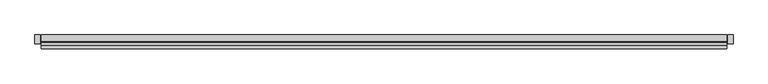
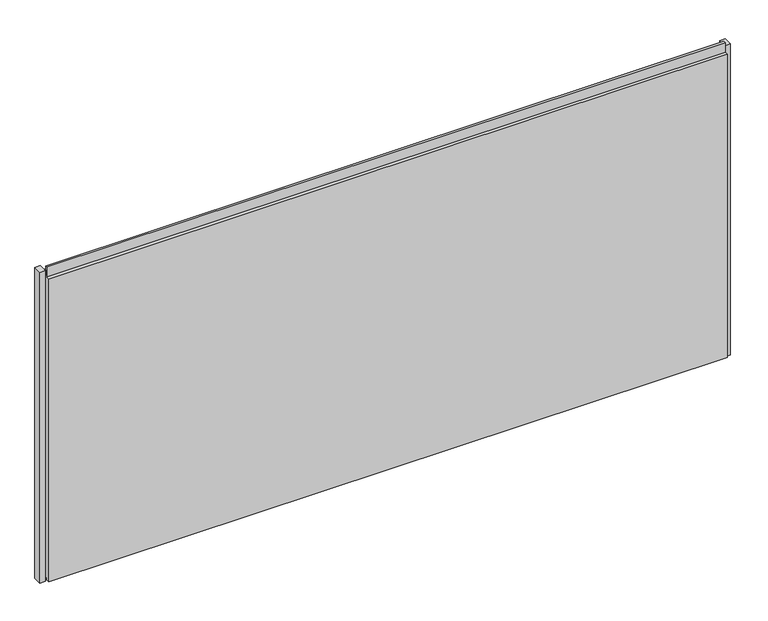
"""IFC4 building model written with IfcOpenShell, lengths in millimetres: plate geometry, Trimo_Qbiss Screen_Normal Panel-HORIZONTAL : HR - B-F."""

import ifcopenshell
import ifcopenshell.guid

model = None  # the IFC model being written
_history = None  # IfcOwnerHistory: only IFC2X3 demands one
_inside = {}  # id of a spatial element -> (the spatial element, [elements in it])
_under = {}  # id of a project, library or spatial element -> (it, [spatial elements below it])
_declared = {}  # id of a project -> (the project, [libraries it declares])
_typed = {}  # id of a type object -> (the type object, [elements of that type])
_made_of = {}  # id of a material, layer set ... -> (it, [elements and type objects made of it])


def new_model(schema):
    """Start an empty IFC model of exactly this schema.

    Asked for "IFC4X3", IfcOpenShell would pick the latest addendum, in which some entities
    have other attributes; the version numbers below select the first issue.
    IFC2X3 requires an IfcOwnerHistory on every rooted entity: one is made here for all.
    """
    global model, _history
    if schema == "IFC4X3":
        model = ifcopenshell.file(schema_version=(4, 3, 0, 0))
    else:
        model = ifcopenshell.file(schema=schema)
    _inside.clear()
    _under.clear()
    _declared.clear()
    _typed.clear()
    _made_of.clear()
    _history = None
    if model.schema == "IFC2X3":
        org = make("IfcOrganization", Name="unknown")
        user = make(
            "IfcPersonAndOrganization",
            ThePerson=make("IfcPerson", FamilyName="unknown"),
            TheOrganization=org,
        )
        app = make(
            "IfcApplication",
            ApplicationDeveloper=org,
            Version="unknown",
            ApplicationFullName="unknown",
            ApplicationIdentifier="unknown",
        )
        _history = make(
            "IfcOwnerHistory",
            OwningUser=user,
            OwningApplication=app,
            ChangeAction="ADDED",
            CreationDate=0,
        )
    return model


def make(cls, **values):
    """One entity of the class cls with the attributes given. An attribute that is None is left unset."""
    return model.create_entity(
        cls, **{name: value for name, value in values.items() if value is not None}
    )


def rooted(cls, **values):
    """An entity with a GlobalId (a new one), such as an element, a storey or a relation."""
    return make(cls, GlobalId=ifcopenshell.guid.new(), OwnerHistory=_history, **values)


def si_unit(unit_type, name, prefix=None):
    """IfcSIUnit, for example si_unit("LENGTHUNIT", "METRE", prefix="MILLI")."""
    return make("IfcSIUnit", UnitType=unit_type, Prefix=prefix, Name=name)


def assignment(units):
    """IfcUnitAssignment: the units of a project."""
    return None if units is None else make("IfcUnitAssignment", Units=units)


def point(xyz):
    """IfcCartesianPoint."""
    return None if xyz is None else make("IfcCartesianPoint", Coordinates=xyz)


def direction(xyz):
    """IfcDirection."""
    return None if xyz is None else make("IfcDirection", DirectionRatios=xyz)


def frame(location, z_axis=None, x_axis=None):
    """IfcAxis2Placement3D, a coordinate frame: its origin and axes. An axis left out is left unset."""
    return make(
        "IfcAxis2Placement3D",
        Location=point(location),
        Axis=direction(z_axis),
        RefDirection=direction(x_axis),
    )


def origin():
    """The frame at (0, 0, 0) with its axes left unset."""
    return frame((0.0, 0.0, 0.0))


def place(relative_to, where):
    """IfcLocalPlacement: puts the frame where relative to a parent placement (None: the world)."""
    return make(
        "IfcLocalPlacement", PlacementRelTo=relative_to, RelativePlacement=where
    )


def context(
    kind, dimensions, precision=None, world=None, true_north=None, identifier=None
):
    """IfcGeometricRepresentationContext, for example the 3D "Model" context."""
    return make(
        "IfcGeometricRepresentationContext",
        ContextIdentifier=identifier,
        ContextType=kind,
        CoordinateSpaceDimension=dimensions,
        Precision=precision,
        WorldCoordinateSystem=world,
        TrueNorth=true_north,
    )


def project(units=None, contexts=None):
    """IfcProject with its units and contexts."""
    return rooted(
        "IfcProject",
        Name="project",
        RepresentationContexts=contexts,
        UnitsInContext=assignment(units),
    )


def spatial(cls, under=None, at=None, **own):
    """A site, building, storey or space (cls), placed at a placement, below another one or the project."""
    s = rooted(cls, ObjectPlacement=at, **own)
    if under is not None:
        _under.setdefault(under.id(), (under, []))[1].append(s)
    return s


def polyline(points):
    """IfcPolyline through the points."""
    return make("IfcPolyline", Points=[point(p) for p in points])


def outline(outer, holes=None, kind="AREA"):
    """IfcArbitraryClosedProfileDef: a profile drawn as a closed curve; with holes, ...WithVoids."""
    if holes is None:
        return make("IfcArbitraryClosedProfileDef", ProfileType=kind, OuterCurve=outer)
    return make(
        "IfcArbitraryProfileDefWithVoids",
        ProfileType=kind,
        OuterCurve=outer,
        InnerCurves=holes,
    )


def extrude(swept, where, along, depth):
    """IfcExtrudedAreaSolid: the profile swept, set in the frame where, extruded along a direction by depth."""
    return make(
        "IfcExtrudedAreaSolid",
        SweptArea=swept,
        Position=where,
        ExtrudedDirection=direction(along),
        Depth=depth,
    )


def shape(context_of_items, identifier, shape_type, items):
    """IfcShapeRepresentation: the items that make up one representation, for example the "Body"."""
    return make(
        "IfcShapeRepresentation",
        ContextOfItems=context_of_items,
        RepresentationIdentifier=identifier,
        RepresentationType=shape_type,
        Items=items,
    )


def source(mapping_origin, context_of_items, identifier, shape_type, items):
    """IfcRepresentationMap: a shape defined once, which mapped items show again and again."""
    return make(
        "IfcRepresentationMap",
        MappingOrigin=mapping_origin,
        MappedRepresentation=shape(context_of_items, identifier, shape_type, items),
    )


def transform(
    local_origin,
    x_axis=None,
    y_axis=None,
    z_axis=None,
    scale=None,
    scale2=None,
    scale3=None,
    uniform=True,
):
    """IfcCartesianTransformationOperator3D, or its non-uniform kind. x_axis, y_axis, z_axis: its Axis1, 2, 3."""
    if uniform:
        return make(
            "IfcCartesianTransformationOperator3D",
            Axis1=direction(x_axis),
            Axis2=direction(y_axis),
            LocalOrigin=point(local_origin),
            Scale=scale,
            Axis3=direction(z_axis),
        )
    return make(
        "IfcCartesianTransformationOperator3DnonUniform",
        Axis1=direction(x_axis),
        Axis2=direction(y_axis),
        LocalOrigin=point(local_origin),
        Scale=scale,
        Axis3=direction(z_axis),
        Scale2=scale2,
        Scale3=scale3,
    )


def mapped(mapping_source, mapping_target):
    """IfcMappedItem: shows the shape of a source again, moved by a transform."""
    return make(
        "IfcMappedItem", MappingSource=mapping_source, MappingTarget=mapping_target
    )


def made_of(thing, what):
    """Note that an element or type object is made of a material, layer set ...; save() writes the relation."""
    if what is not None:
        _made_of.setdefault(what.id(), (what, []))[1].append(thing)
    return thing


def element(
    cls,
    number,
    at=None,
    inside=None,
    cuts=None,
    type_object=None,
    material=None,
    context=None,
    identifier="Body",
    shape_type=None,
    held_by="IfcProductDefinitionShape",
    body=None,
    shapes=None,
    **own,
):
    """One element of the class cls, such as IfcWall. Its Tag is "e" and its number.

    at: its placement. inside: the storey or other place that contains it. cuts: it is an
    opening in that element (IfcRelVoidsElement). A single representation is given by context,
    identifier, shape_type and body (its items); several are given by shapes. held_by: the class
    of the entity that holds the representations. save() writes the other relations.
    """
    e = rooted(cls, Tag="e%d" % number, ObjectPlacement=at, **own)
    if body is not None:
        shapes = [shape(context, identifier, shape_type, body)]
    if shapes is not None:
        e.Representation = make(held_by, Representations=shapes)
    if inside is not None:
        _inside.setdefault(inside.id(), (inside, []))[1].append(e)
    if cuts is not None:
        rooted(
            "IfcRelVoidsElement", RelatingBuildingElement=cuts, RelatedOpeningElement=e
        )
    if type_object is not None:
        _typed.setdefault(type_object.id(), (type_object, []))[1].append(e)
    return made_of(e, material)


def aggregate(whole, parts):
    """IfcRelAggregates: a whole, such as a stair, and the parts it consists of."""
    return rooted("IfcRelAggregates", RelatingObject=whole, RelatedObjects=parts)


def save(model, path):
    """Write the relations noted so far, then the file.

    IfcRelAggregates (storeys below a building ...), IfcRelContainedInSpatialStructure (elements
    in a storey), IfcRelDefinesByType, IfcRelAssociatesMaterial and IfcRelDeclares: one each for
    every whole, place, type object, material and project.
    """
    for whole, parts in _under.values():
        aggregate(whole, parts)
    for where, things in _inside.values():
        rooted(
            "IfcRelContainedInSpatialStructure",
            RelatedElements=things,
            RelatingStructure=where,
        )
    for kind, things in _typed.values():
        rooted("IfcRelDefinesByType", RelatedObjects=things, RelatingType=kind)
    for what, things in _made_of.values():
        rooted("IfcRelAssociatesMaterial", RelatedObjects=things, RelatingMaterial=what)
    for by, libraries in _declared.values():
        rooted("IfcRelDeclares", RelatingContext=by, RelatedDefinitions=libraries)
    model.write(path)


def plate_a6211809(model_context):
    return source(origin(), model_context, "Body", "SweptSolid", [
        extrude(outline(polyline([(-1240.5, 67.8978162), (-1259.5, 67.8978162), (-1259.5, 100.0), (-1240.5, 100.0), (-1240.5, 67.8978162)])), frame((0.0, 0.0, -1.0), z_axis=(0.0, 0.0, 1.0), x_axis=(1.0, 0.0, 0.0)), (0.0, 0.0, 1.0), 1200.0),
        extrude(outline(polyline([(1259.5, 67.8978162), (1240.5, 67.8978162), (1240.5, 100.0), (1259.5, 100.0), (1259.5, 67.8978162)])), frame((0.0, 0.0, -1.0), z_axis=(0.0, 0.0, 1.0), x_axis=(1.0, 0.0, 0.0)), (0.0, 0.0, 1.0), 1200.0),
        extrude(outline(polyline([(1237.5, 76.0), (1237.5, 71.0), (-1237.5, 71.0), (-1237.5, 76.0), (1237.5, 76.0)])), frame((0.0, 0.0, 1178.0), z_axis=(0.0, 0.0, 1.0), x_axis=(1.0, 0.0, 0.0)), (0.0, 0.0, 1.0), 21.0),
        extrude(outline(polyline([(71.0, 1177.0), (100.0, 1177.0), (100.0, 0.0), (72.0, 0.0), (72.0, 15.5), (62.0, 15.5), (62.0, 7.0), (50.0, 7.0), (50.0, 1177.0), (63.0, 1177.0), (63.0, 1214.5), (71.0, 1214.5), (71.0, 1177.0)])), frame((-1237.5, 0.0, 0.0), z_axis=(1.0, 0.0, 0.0), x_axis=(0.0, 1.0, 0.0)), (0.0, 0.0, 1.0), 2475.0),
    ])


if __name__ == "__main__":
    model = new_model("IFC4")
    model_context = context("Model", 3, world=origin())
    ifc_project = project(units=[si_unit("LENGTHUNIT", "METRE", prefix="MILLI")], contexts=[model_context])
    site = spatial("IfcSite", under=ifc_project)
    building = spatial("IfcBuilding", under=site)
    placement = place(None, origin())
    plate_shape = plate_a6211809(model_context)
    element("IfcPlate", 1, ObjectType="Trimo_Qbiss Screen_Normal Panel-HORIZONTAL : HR - B-F", at=placement, inside=building, context=model_context, shape_type="MappedRepresentation", body=[
        mapped(plate_shape, transform((0.0, 0.0, 0.0), x_axis=(1.0, 0.0, 0.0), y_axis=(0.0, 1.0, 0.0), z_axis=(0.0, 0.0, 1.0))),
    ])
    save(model, "model.ifc")
